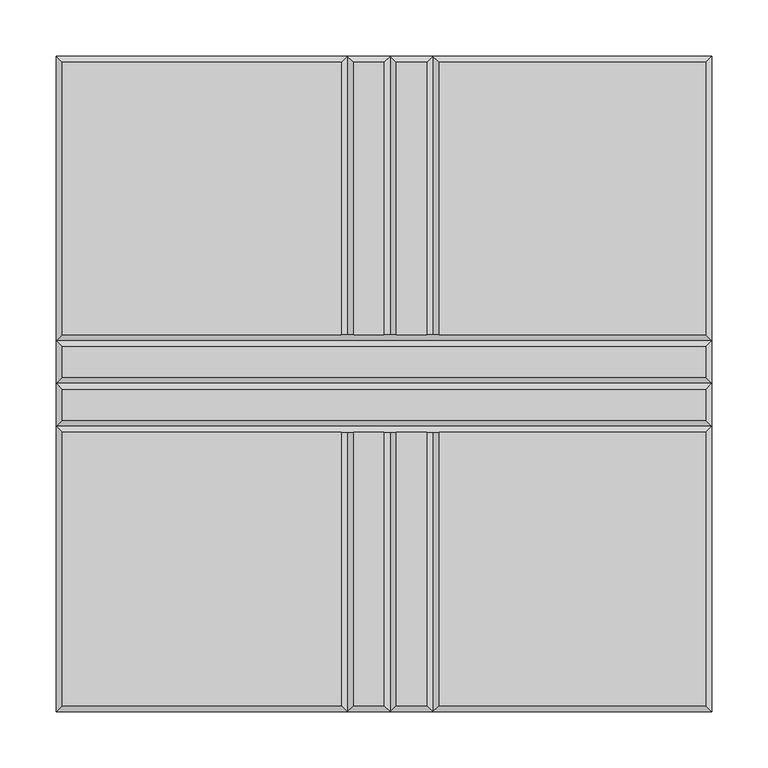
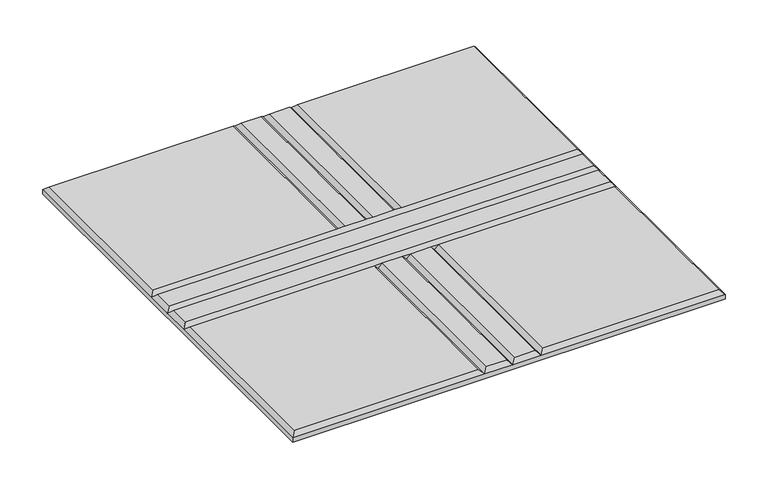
"""IFC4 building model written with IfcOpenShell, lengths in millimetres: proxy geometry, Wall-Panel-Kirei-EchoPanel-Echotile-Racetrack : Instersection Tile."""

from ifc_helpers import new_model, si_unit, origin, place, context, project, spatial, faceted_brep, source, transform, mapped, element, save


def specialty_equipment_276b5d11(model_context):
    return source(origin(), model_context, "Body", "Brep", [
        faceted_brep([(-30.9054687, 44.0630399, 12.0054687), (-30.9054687, 286.5945312, 12.0054687), (-268.3890625, 286.5945312, 12.0054687), (-268.3890625, 44.0630399, 12.0054687), (-30.9054687, 5.9630399, 12.0054687), (-30.9054687, 33.0521024, 12.0054687), (-604.0945312, 33.0521024, 12.0054687), (-604.0945312, 5.9630399, 12.0054687), (-30.9054687, -286.5945313, 12.0054687), (-30.9054687, -43.1478976, 12.0054687), (-268.3890625, -43.1478976, 12.0054687), (-268.3890625, -286.5945313, 12.0054687), (-30.9054687, -32.1369601, 12.0054687), (-30.9054687, -5.0478976, 12.0054687), (-604.0945312, -5.0478976, 12.0054687), (-604.0945312, -32.1369601, 12.0054687), (-604.0945312, 286.5945312, 12.0054687), (-604.0945312, 44.0630399, 12.0054687), (-355.6, 44.0630399, 12.0054687), (-355.6, 286.5945312, 12.0054687), (-604.0945312, -43.1478976, 12.0054687), (-604.0945312, -286.5945313, 12.0054687), (-355.6, -286.5945313, 12.0054687), (-355.6, -43.1478976, 12.0054687), (-279.4, 286.5945312, 12.0054687), (-306.4890625, 286.5945312, 12.0054687), (-306.4890625, 44.0630399, 12.0054687), (-279.4, 44.0630399, 12.0054687), (-317.5, 286.5945312, 12.0054687), (-344.5890625, 286.5945312, 12.0054687), (-344.5890625, 44.0630399, 12.0054687), (-317.5, 44.0630399, 12.0054687), (-306.4890625, -286.5945313, 12.0054687), (-279.4, -286.5945313, 12.0054687), (-279.4, -43.1478976, 12.0054687), (-306.4890625, -43.1478976, 12.0054687), (-344.5890625, -286.5945313, 12.0054687), (-317.5, -286.5945313, 12.0054687), (-317.5, -43.1478976, 12.0054687), (-344.5890625, -43.1478976, 12.0054687), (-25.4, 292.1, 0.0), (-25.4, -292.1, 0.0), (-609.6, -292.1, 0.0), (-609.6, 292.1, 0.0), (-609.6, 292.1, 6.5), (-350.0945313, 292.1, 6.5), (-311.9945313, 292.1, 6.5), (-273.8945313, 292.1, 6.5), (-25.4, 292.1, 6.5), (-609.6, -292.1, 6.5), (-609.6, -37.6424289, 6.5), (-609.6, 0.4575711, 6.5), (-609.6, 38.5575711, 6.5), (-25.4, -292.1, 6.5), (-273.8945313, -292.1, 6.5), (-311.9945312, -292.1, 6.5), (-350.0945312, -292.1, 6.5), (-25.4, 38.5575711, 6.5), (-25.4, 0.4575711, 6.5), (-25.4, -37.6424289, 6.5), (-273.8945313, 44.0630399, 6.5), (-311.9945313, 44.0630399, 6.5), (-350.0945313, 44.0630399, 6.5), (-273.8945313, -43.1478976, 6.5), (-311.9945313, -43.1478976, 6.5), (-350.0945313, -43.1478976, 6.5)], [[[0, 1, 2, 3]], [[4, 5, 6, 7]], [[8, 9, 10, 11]], [[12, 13, 14, 15]], [[16, 17, 18, 19]], [[20, 21, 22, 23]], [[24, 25, 26, 27]], [[28, 29, 30, 31]], [[32, 33, 34, 35]], [[36, 37, 38, 39]], [[40, 41, 42, 43]], [[40, 43, 44, 45, 46, 47, 48]], [[43, 42, 49, 50, 51, 52, 44]], [[42, 41, 53, 54, 55, 56, 49]], [[41, 40, 48, 57, 58, 59, 53]], [[5, 4, 58, 57]], [[13, 12, 59, 58]], [[48, 1, 0, 57]], [[8, 53, 59, 9]], [[25, 24, 47, 46]], [[29, 28, 46, 45]], [[1, 48, 47, 2]], [[44, 16, 19, 45]], [[7, 6, 52, 51]], [[15, 14, 51, 50]], [[16, 44, 52, 17]], [[49, 21, 20, 50]], [[33, 32, 55, 54]], [[37, 36, 56, 55]], [[53, 8, 11, 54]], [[21, 49, 56, 22]], [[57, 52, 6, 5]], [[52, 57, 0, 3, 27, 26, 31, 30, 18, 17]], [[58, 51, 14, 13]], [[51, 58, 4, 7]], [[59, 50, 20, 23, 39, 38, 35, 34, 10, 9]], [[50, 59, 12, 15]], [[27, 60, 47, 24]], [[60, 3, 2, 47]], [[31, 61, 46, 28]], [[61, 26, 25, 46]], [[18, 62, 45, 19]], [[62, 30, 29, 45]], [[60, 27, 3]], [[61, 31, 26]], [[62, 18, 30]], [[63, 34, 33, 54]], [[10, 63, 54, 11]], [[64, 38, 37, 55]], [[35, 64, 55, 32]], [[65, 23, 22, 56]], [[39, 65, 56, 36]], [[34, 63, 10]], [[38, 64, 35]], [[23, 65, 39]]]),
    ])


if __name__ == "__main__":
    model = new_model("IFC4")
    model_context = context("Model", 3, world=origin())
    ifc_project = project(units=[si_unit("LENGTHUNIT", "METRE", prefix="MILLI")], contexts=[model_context])
    site = spatial("IfcSite", under=ifc_project)
    building = spatial("IfcBuilding", under=site)
    placement = place(None, origin())
    specialty_equipment_shape = specialty_equipment_276b5d11(model_context)
    element("IfcBuildingElementProxy", 1, Name="Wall-Panel-Kirei-EchoPanel-Echotile-Racetrack : Instersection Tile", ObjectType="Wall-Panel-Kirei-EchoPanel-Echotile-Racetrack : Instersection Tile", at=placement, inside=building, context=model_context, shape_type="MappedRepresentation", body=[
        mapped(specialty_equipment_shape, transform((0.0, 0.0, 0.0), x_axis=(1.0, 0.0, 0.0), y_axis=(0.0, 1.0, 0.0), z_axis=(0.0, 0.0, 1.0))),
    ])
    save(model, "model.ifc")
